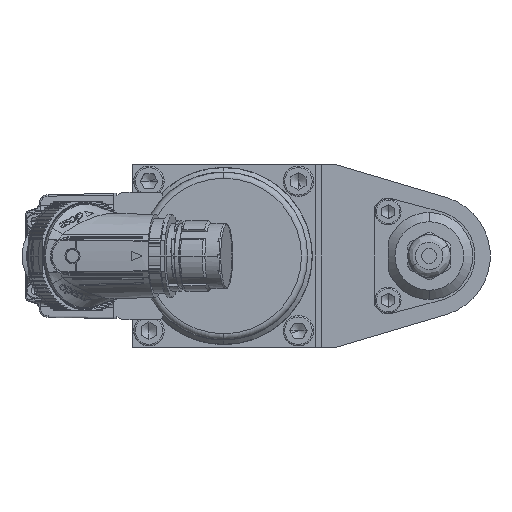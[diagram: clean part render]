
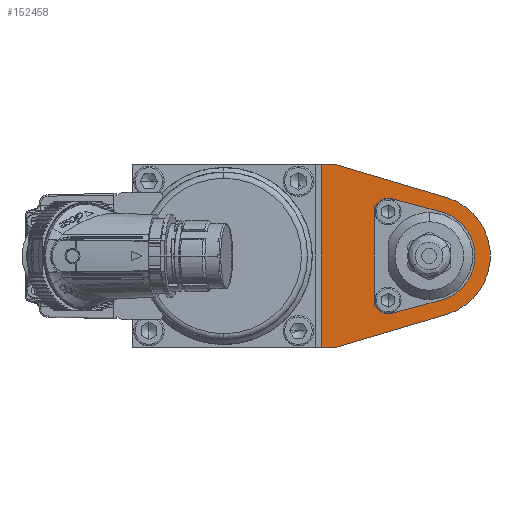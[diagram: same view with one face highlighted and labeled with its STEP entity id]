
A CAD part, left-side view. The second image highlights one B-rep face of the part: STEP entity #152458.
In plain terms, the highlighted planar face has unit normal (-1, 0, 0).
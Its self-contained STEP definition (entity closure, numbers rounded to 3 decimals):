
#186 = CARTESIAN_POINT ( 'NONE',  ( -86.7, -5.68, -19.176 ) ) ;
#6430 = DIRECTION ( 'NONE',  ( 0., 0., -1. ) ) ;
#6594 = ORIENTED_EDGE ( 'NONE', *, *, #138888, .T. ) ;
#7840 = CARTESIAN_POINT ( 'NONE',  ( -86.7, 12.953, -19. ) ) ;
#11146 = EDGE_LOOP ( 'NONE', ( #156830, #97678, #31361, #22083, #74236, #117549 ) ) ;
#12182 = EDGE_CURVE ( 'NONE', #88158, #149404, #81874, .T. ) ;
#12238 = ORIENTED_EDGE ( 'NONE', *, *, #125598, .T. ) ;
#13210 = CARTESIAN_POINT ( 'NONE',  ( -86.7, 12.953, 19. ) ) ;
#15456 = DIRECTION ( 'NONE',  ( 0., 0., 1. ) ) ;
#16423 = VERTEX_POINT ( 'NONE', #62449 ) ;
#19341 = VECTOR ( 'NONE', #55628, 1000. ) ;
#19898 = CARTESIAN_POINT ( 'NONE',  ( -86.7, 30.86, 30. ) ) ;
#22083 = ORIENTED_EDGE ( 'NONE', *, *, #118796, .F. ) ;
#22449 = VECTOR ( 'NONE', #45356, 1000. ) ;
#23065 = VERTEX_POINT ( 'NONE', #38809 ) ;
#24924 = VECTOR ( 'NONE', #149275, 1000. ) ;
#26582 = DIRECTION ( 'NONE',  ( 0., 1., 0. ) ) ;
#27384 = AXIS2_PLACEMENT_3D ( 'NONE', #113220, #109929, #6430 ) ;
#30181 = EDGE_CURVE ( 'NONE', #152740, #61000, #100453, .T. ) ;
#31361 = ORIENTED_EDGE ( 'NONE', *, *, #57730, .F. ) ;
#32183 = CARTESIAN_POINT ( 'NONE',  ( -86.7, 18., -19. ) ) ;
#33183 = VERTEX_POINT ( 'NONE', #79839 ) ;
#37064 = CARTESIAN_POINT ( 'NONE',  ( -86.7, 17.1, -17.1 ) ) ;
#38797 = VERTEX_POINT ( 'NONE', #77910 ) ;
#38809 = CARTESIAN_POINT ( 'NONE',  ( -86.7, 15.2, -19. ) ) ;
#41582 = AXIS2_PLACEMENT_3D ( 'NONE', #151982, #90203, #75843 ) ;
#45356 = DIRECTION ( 'NONE',  ( 0., -1., 0. ) ) ;
#46100 = VERTEX_POINT ( 'NONE', #124066 ) ;
#52361 = EDGE_CURVE ( 'NONE', #33183, #128890, #91927, .T. ) ;
#55628 = DIRECTION ( 'NONE',  ( 0., -0.966, -0.259 ) ) ;
#57730 = EDGE_CURVE ( 'NONE', #148923, #88158, #87336, .T. ) ;
#61000 = VERTEX_POINT ( 'NONE', #139312 ) ;
#61029 = VERTEX_POINT ( 'NONE', #66482 ) ;
#62449 = CARTESIAN_POINT ( 'NONE',  ( -86.7, 15.2, 19. ) ) ;
#65751 = LINE ( 'NONE', #158747, #129554 ) ;
#66391 = DIRECTION ( 'NONE',  ( 0., -0.707, 0.707 ) ) ;
#66482 = CARTESIAN_POINT ( 'NONE',  ( -86.7, -3.882, 14.489 ) ) ;
#66725 = CARTESIAN_POINT ( 'NONE',  ( -86.7, 30.86, 30. ) ) ;
#67281 = LINE ( 'NONE', #158598, #104524 ) ;
#68183 = EDGE_CURVE ( 'NONE', #162342, #139614, #67281, .T. ) ;
#68915 = CIRCLE ( 'NONE', #117478, 15. ) ;
#72160 = DIRECTION ( 'NONE',  ( 0., 0., 1. ) ) ;
#72399 = DIRECTION ( 'NONE',  ( 0., 0., -1. ) ) ;
#73330 = ORIENTED_EDGE ( 'NONE', *, *, #78597, .T. ) ;
#73595 = LINE ( 'NONE', #37064, #131901 ) ;
#74236 = ORIENTED_EDGE ( 'NONE', *, *, #98815, .F. ) ;
#75843 = DIRECTION ( 'NONE',  ( 0., 0., -1. ) ) ;
#76240 = LINE ( 'NONE', #165074, #135369 ) ;
#77910 = CARTESIAN_POINT ( 'NONE',  ( -86.7, 12.953, 19. ) ) ;
#78597 = EDGE_CURVE ( 'NONE', #139614, #16423, #95138, .T. ) ;
#79214 = DIRECTION ( 'NONE',  ( 0., 0.966, -0.259 ) ) ;
#79839 = CARTESIAN_POINT ( 'NONE',  ( -86.7, -3.882, -14.489 ) ) ;
#80222 = LINE ( 'NONE', #13210, #19341 ) ;
#80939 = DIRECTION ( 'NONE',  ( 0., -0.959, -0.284 ) ) ;
#81874 = LINE ( 'NONE', #19898, #22449 ) ;
#85789 = EDGE_CURVE ( 'NONE', #149404, #152740, #65751, .T. ) ;
#87336 = LINE ( 'NONE', #136453, #167036 ) ;
#87468 = EDGE_CURVE ( 'NONE', #38797, #61029, #80222, .T. ) ;
#88158 = VERTEX_POINT ( 'NONE', #91718 ) ;
#88313 = CARTESIAN_POINT ( 'NONE',  ( -86.7, -5.68, 19.176 ) ) ;
#88764 = DIRECTION ( 'NONE',  ( 0., 0.707, 0.707 ) ) ;
#90203 = DIRECTION ( 'NONE',  ( 1., 0., 0. ) ) ;
#91075 = CARTESIAN_POINT ( 'NONE',  ( -86.7, 12.953, -19. ) ) ;
#91718 = CARTESIAN_POINT ( 'NONE',  ( -86.7, 35.397, 30. ) ) ;
#91927 = LINE ( 'NONE', #91075, #138481 ) ;
#92683 = LINE ( 'NONE', #32183, #152627 ) ;
#93204 = EDGE_CURVE ( 'NONE', #16423, #38797, #76240, .T. ) ;
#95138 = LINE ( 'NONE', #146729, #120945 ) ;
#97678 = ORIENTED_EDGE ( 'NONE', *, *, #12182, .F. ) ;
#97705 = LINE ( 'NONE', #138256, #24924 ) ;
#97802 = DIRECTION ( 'NONE',  ( 1., 0., 0. ) ) ;
#98815 = EDGE_CURVE ( 'NONE', #61000, #46100, #155351, .T. ) ;
#100453 = CIRCLE ( 'NONE', #27384, 20. ) ;
#101330 = ORIENTED_EDGE ( 'NONE', *, *, #93204, .T. ) ;
#102065 = FACE_BOUND ( 'NONE', #133543, .T. ) ;
#103314 = DIRECTION ( 'NONE',  ( 0., -1., 0. ) ) ;
#104524 = VECTOR ( 'NONE', #15456, 1000. ) ;
#106254 = DIRECTION ( 'NONE',  ( 0., 0.959, -0.284 ) ) ;
#108838 = CARTESIAN_POINT ( 'NONE',  ( -86.7, 18., 16.2 ) ) ;
#109929 = DIRECTION ( 'NONE',  ( 1., 0., 0. ) ) ;
#113220 = CARTESIAN_POINT ( 'NONE',  ( -86.7, 0., 0. ) ) ;
#114966 = CARTESIAN_POINT ( 'NONE',  ( -86.7, 18., -16.2 ) ) ;
#117478 = AXIS2_PLACEMENT_3D ( 'NONE', #161216, #97802, #72399 ) ;
#117549 = ORIENTED_EDGE ( 'NONE', *, *, #30181, .F. ) ;
#118796 = EDGE_CURVE ( 'NONE', #46100, #148923, #97705, .T. ) ;
#120945 = VECTOR ( 'NONE', #66391, 1000. ) ;
#124066 = CARTESIAN_POINT ( 'NONE',  ( -86.7, 30.86, -30. ) ) ;
#125598 = EDGE_CURVE ( 'NONE', #128890, #23065, #92683, .T. ) ;
#127436 = FACE_OUTER_BOUND ( 'NONE', #11146, .T. ) ;
#128877 = ORIENTED_EDGE ( 'NONE', *, *, #68183, .T. ) ;
#128890 = VERTEX_POINT ( 'NONE', #7840 ) ;
#129554 = VECTOR ( 'NONE', #80939, 1000. ) ;
#131266 = CARTESIAN_POINT ( 'NONE',  ( -86.7, 35.397, -30. ) ) ;
#131901 = VECTOR ( 'NONE', #88764, 1000. ) ;
#133543 = EDGE_LOOP ( 'NONE', ( #128877, #73330, #101330, #139211, #6594, #145101, #12238, #151518 ) ) ;
#134844 = VECTOR ( 'NONE', #106254, 1000. ) ;
#135369 = VECTOR ( 'NONE', #103314, 1000. ) ;
#136453 = CARTESIAN_POINT ( 'NONE',  ( -86.7, 35.397, -30. ) ) ;
#138256 = CARTESIAN_POINT ( 'NONE',  ( -86.7, 97.397, -30. ) ) ;
#138481 = VECTOR ( 'NONE', #79214, 1000. ) ;
#138888 = EDGE_CURVE ( 'NONE', #61029, #33183, #68915, .T. ) ;
#139211 = ORIENTED_EDGE ( 'NONE', *, *, #87468, .T. ) ;
#139312 = CARTESIAN_POINT ( 'NONE',  ( -86.7, -5.68, -19.176 ) ) ;
#139614 = VERTEX_POINT ( 'NONE', #108838 ) ;
#140187 = PLANE ( 'NONE',  #41582 ) ;
#145101 = ORIENTED_EDGE ( 'NONE', *, *, #52361, .T. ) ;
#146729 = CARTESIAN_POINT ( 'NONE',  ( -86.7, 17.1, 17.1 ) ) ;
#148923 = VERTEX_POINT ( 'NONE', #131266 ) ;
#149275 = DIRECTION ( 'NONE',  ( 0., 1., 0. ) ) ;
#149404 = VERTEX_POINT ( 'NONE', #66725 ) ;
#151518 = ORIENTED_EDGE ( 'NONE', *, *, #154028, .T. ) ;
#151982 = CARTESIAN_POINT ( 'NONE',  ( -86.7, 0., 0. ) ) ;
#152458 = ADVANCED_FACE ( 'NONE', ( #127436, #102065 ), #140187, .F. ) ;
#152627 = VECTOR ( 'NONE', #26582, 1000. ) ;
#152740 = VERTEX_POINT ( 'NONE', #88313 ) ;
#154028 = EDGE_CURVE ( 'NONE', #23065, #162342, #73595, .T. ) ;
#155351 = LINE ( 'NONE', #186, #134844 ) ;
#156830 = ORIENTED_EDGE ( 'NONE', *, *, #85789, .F. ) ;
#158598 = CARTESIAN_POINT ( 'NONE',  ( -86.7, 18., 19. ) ) ;
#158747 = CARTESIAN_POINT ( 'NONE',  ( -86.7, 30.86, 30. ) ) ;
#161216 = CARTESIAN_POINT ( 'NONE',  ( -86.7, 0., 0. ) ) ;
#162342 = VERTEX_POINT ( 'NONE', #114966 ) ;
#165074 = CARTESIAN_POINT ( 'NONE',  ( -86.7, 12.953, 19. ) ) ;
#167036 = VECTOR ( 'NONE', #72160, 1000. ) ;
